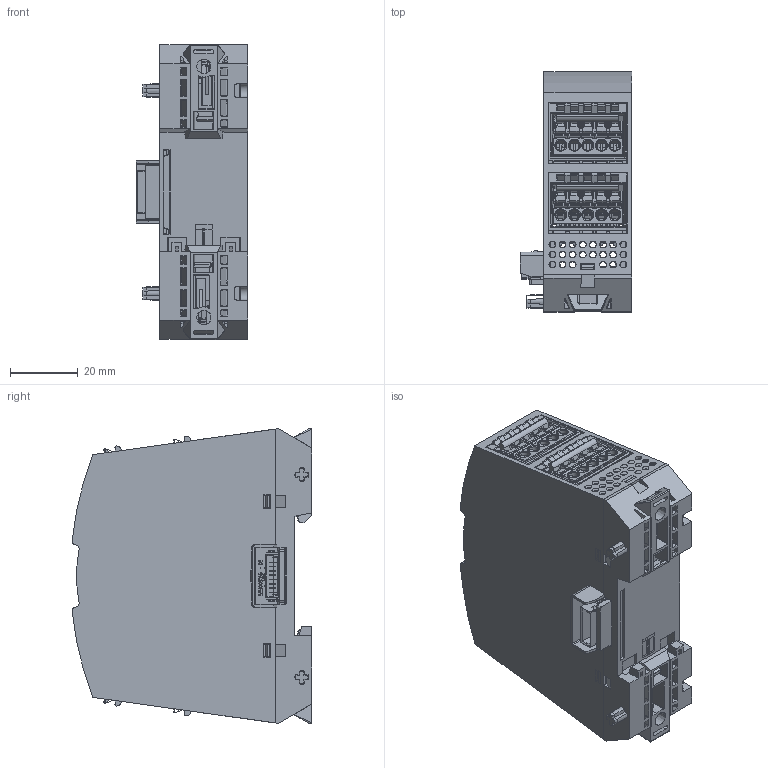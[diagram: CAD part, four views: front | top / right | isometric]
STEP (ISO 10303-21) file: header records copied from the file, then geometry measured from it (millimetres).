
FILE_DESCRIPTION((''),'2;1');
FILE_NAME('MICRO_IO-MODULE_SW0001','2023-11-13T09:52:22',('tbothe'),(''),'CREO PARAMETRIC BY PTC INC, 2020454','CREO PARAMETRIC BY PTC INC, 2020454','');
FILE_SCHEMA(('CONFIG_CONTROL_DESIGN','SHAPE_APPEARANCE_LAYERS_GROUPS'));
Products named in the file (1): MICRO_IO-MODULE_SW0001
Bounding box: 33 x 70.93 x 87.45 mm (x, y, z)
Surface area: 56477.6 mm2 (no closed solid volume)
Topology: 0 solids, 345 shells, 2227 faces, 17044 edges, 14903 vertices
Faces by surface type: plane 1707, cylinder 397, cone 70, torus 40, bspline 13
Entity records: 180080 total; most frequent: CARTESIAN_POINT 46363, DIRECTION 21635, ORIENTED_EDGE 20681, EDGE_CURVE 17040, VERTEX_POINT 14903, VECTOR 12705, LINE 12705, AXIS2_PLACEMENT_3D 4465
